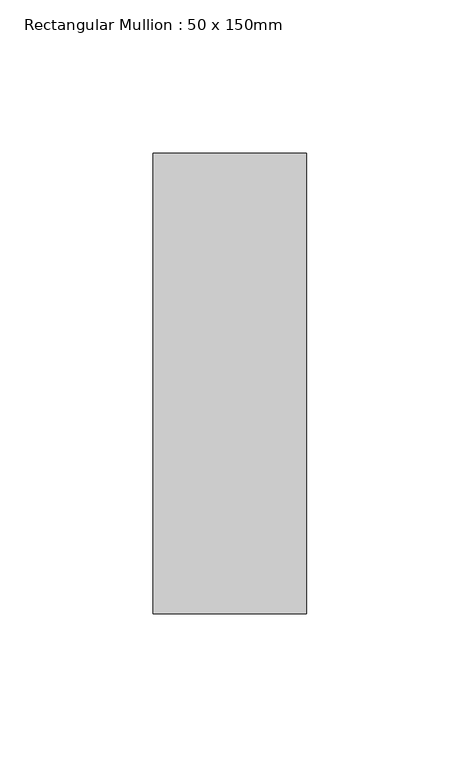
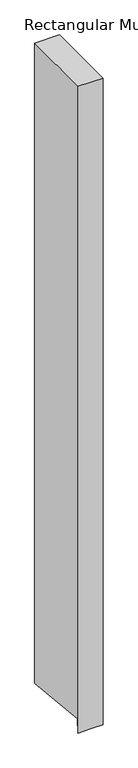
"""IFC4 building model written with IfcOpenShell, lengths in millimetres: member geometry, Rectangular Mullion : 50 x 150mm."""

from ifc_helpers import new_model, si_unit, origin, place, context, project, spatial, faceted_brep, source, transform, mapped, element, save


def rectangular_mullion_50_x_150mm_03d89323(model_context):
    return source(origin(), model_context, "Body", "Brep", [
        faceted_brep([(25.0, 75.0, 0.0), (-25.0, 75.0, 0.0), (-25.0, -75.0, 0.0), (25.0, -75.0, 0.0), (25.0, 75.0, -1348.1007069), (0.0, 75.0, -1348.1007069), (-25.0, 75.0, -1348.1007069), (-25.0, -72.3032509, -1334.1244191), (-25.0, -75.0, -1362.5468382), (0.0, -75.0, -1362.5468382), (25.0, -75.0, -1362.5468382), (25.0, -72.3032509, -1334.1244191), (0.0, -72.3032509, -1334.1244191)], [[[0, 1, 2, 3]], [[1, 0, 4, 5, 6]], [[2, 1, 6, 7, 8]], [[3, 2, 8, 9, 10]], [[0, 3, 10, 11, 4]], [[4, 11, 12, 5]], [[11, 10, 9, 12]], [[9, 8, 7, 12]], [[7, 6, 5, 12]]]),
    ])


if __name__ == "__main__":
    model = new_model("IFC4")
    model_context = context("Model", 3, world=origin())
    ifc_project = project(units=[si_unit("LENGTHUNIT", "METRE", prefix="MILLI")], contexts=[model_context])
    site = spatial("IfcSite", under=ifc_project)
    building = spatial("IfcBuilding", under=site)
    placement = place(None, origin())
    rectangular_mullion_50_x_150mm_shape = rectangular_mullion_50_x_150mm_03d89323(model_context)
    element("IfcMember", 1, ObjectType="Rectangular Mullion : 50 x 150mm", at=placement, inside=building, context=model_context, shape_type="MappedRepresentation", body=[
        mapped(rectangular_mullion_50_x_150mm_shape, transform((0.0, 0.0, 0.0), x_axis=(1.0, 0.0, 0.0), y_axis=(0.0, 1.0, 0.0), z_axis=(0.0, 0.0, 1.0))),
    ])
    save(model, "model.ifc")
